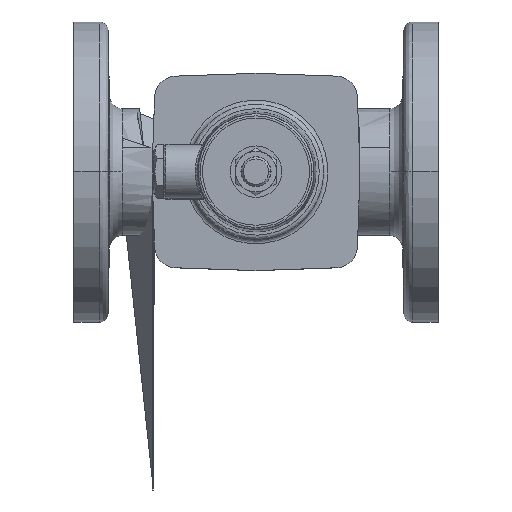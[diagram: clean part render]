
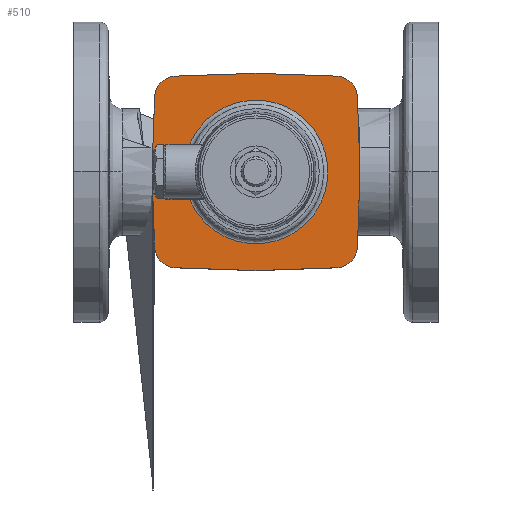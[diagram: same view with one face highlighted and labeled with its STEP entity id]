
A CAD part, top view. The second image highlights one B-rep face of the part: STEP entity #510.
In plain terms, the highlighted planar face has unit normal (0, 0, 1).
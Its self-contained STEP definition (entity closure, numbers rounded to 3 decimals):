
#510=ADVANCED_FACE('',(#3894),#3893,.T.);
#3893=PLANE('',#8030);
#3894=FACE_OUTER_BOUND('',#8031,.T.);
#8027=CARTESIAN_POINT('',(-58.186,-64.752,42.8));
#8028=DIRECTION('',(0.,0.,1.));
#8029=DIRECTION('',(1.,0.,0.));
#8030=AXIS2_PLACEMENT_3D('',#8027,#8028,#8029);
#8031=EDGE_LOOP('',(#10325,#10326,#10327,#10328,#10329,#10330,#10331,#10332,#10333,#10334,#10335,#10336,#10337,#10338,#10339));
#10325=ORIENTED_EDGE('',*,*,#11752,.T.);
#10326=ORIENTED_EDGE('',*,*,#11471,.T.);
#10327=ORIENTED_EDGE('',*,*,#11261,.T.);
#10328=ORIENTED_EDGE('',*,*,#11476,.T.);
#10329=ORIENTED_EDGE('',*,*,#11757,.T.);
#10330=ORIENTED_EDGE('',*,*,#11759,.T.);
#10331=ORIENTED_EDGE('',*,*,#11761,.T.);
#10332=ORIENTED_EDGE('',*,*,#11763,.T.);
#10333=ORIENTED_EDGE('',*,*,#11765,.T.);
#10334=ORIENTED_EDGE('',*,*,#11767,.T.);
#10335=ORIENTED_EDGE('',*,*,#11769,.T.);
#10336=ORIENTED_EDGE('',*,*,#11770,.T.);
#10337=ORIENTED_EDGE('',*,*,#11717,.T.);
#10338=ORIENTED_EDGE('',*,*,#11746,.T.);
#10339=ORIENTED_EDGE('',*,*,#11748,.T.);
#11261=EDGE_CURVE('',#14273,#14274,#14275,.T.);
#11471=EDGE_CURVE('',#15688,#14273,#15701,.T.);
#11476=EDGE_CURVE('',#14274,#15726,#15733,.T.);
#11717=EDGE_CURVE('',#17331,#17324,#17332,.T.);
#11746=EDGE_CURVE('',#17324,#17514,#17521,.T.);
#11748=EDGE_CURVE('',#17514,#17527,#17534,.T.);
#11752=EDGE_CURVE('',#17527,#15688,#17561,.T.);
#11757=EDGE_CURVE('',#15726,#17585,#17592,.T.);
#11759=EDGE_CURVE('',#17585,#17598,#17605,.T.);
#11761=EDGE_CURVE('',#17598,#17611,#17618,.T.);
#11763=EDGE_CURVE('',#17611,#17624,#17631,.T.);
#11765=EDGE_CURVE('',#17624,#17637,#17644,.T.);
#11767=EDGE_CURVE('',#17637,#17650,#17657,.T.);
#11769=EDGE_CURVE('',#17650,#17663,#17670,.T.);
#11770=EDGE_CURVE('',#17663,#17331,#17676,.T.);
#14273=VERTEX_POINT('',#20784);
#14274=VERTEX_POINT('',#20785);
#14275=CIRCLE('',#20789,33.5);
#15688=VERTEX_POINT('',#21881);
#15701=LINE('',#21888,#21889);
#15726=VERTEX_POINT('',#21902);
#15733=LINE('',#21906,#21907);
#17324=VERTEX_POINT('',#23080);
#17331=VERTEX_POINT('',#23084);
#17332=LINE('',#23085,#23086);
#17514=VERTEX_POINT('',#23189);
#17521=LINE('',#23193,#23194);
#17527=VERTEX_POINT('',#23196);
#17534=CIRCLE('',#23203,10.);
#17561=LINE('',#23216,#23217);
#17585=VERTEX_POINT('',#23228);
#17592=LINE('',#23232,#23233);
#17598=VERTEX_POINT('',#23235);
#17605=CIRCLE('',#23242,10.);
#17611=VERTEX_POINT('',#23243);
#17618=LINE('',#23247,#23248);
#17624=VERTEX_POINT('',#23250);
#17631=LINE('',#23254,#23255);
#17637=VERTEX_POINT('',#23257);
#17644=CIRCLE('',#23264,10.);
#17650=VERTEX_POINT('',#23265);
#17657=LINE('',#23269,#23270);
#17663=VERTEX_POINT('',#23272);
#17670=LINE('',#23276,#23277);
#17676=CIRCLE('',#23282,10.);
#20784=CARTESIAN_POINT('',(-32.268,9.,42.8));
#20785=CARTESIAN_POINT('',(-32.268,-9.,42.8));
#20786=CARTESIAN_POINT('',(0.,0.,42.8));
#20787=DIRECTION('',(0.,0.,-1.));
#20788=DIRECTION('',(-1.,0.,0.));
#20789=AXIS2_PLACEMENT_3D('',#20786,#20787,#20788);
#21881=CARTESIAN_POINT('',(-48.186,9.,42.8));
#21888=CARTESIAN_POINT('',(-48.186,9.,42.8));
#21889=VECTOR('',#21890,15.917);
#21890=DIRECTION('',(1.,0.,0.));
#21902=CARTESIAN_POINT('',(-48.186,-9.,42.8));
#21906=CARTESIAN_POINT('',(-32.268,-9.,42.8));
#21907=VECTOR('',#21908,15.917);
#21908=DIRECTION('',(-1.,0.,0.));
#23080=CARTESIAN_POINT('',(0.,46.,42.8));
#23084=CARTESIAN_POINT('',(37.631,44.686,42.8));
#23085=CARTESIAN_POINT('',(37.631,44.686,42.8));
#23086=VECTOR('',#23087,37.654);
#23087=DIRECTION('',(-0.999,0.035,0.));
#23189=CARTESIAN_POINT('',(-37.631,44.686,42.8));
#23193=CARTESIAN_POINT('',(0.,46.,42.8));
#23194=VECTOR('',#23195,37.654);
#23195=DIRECTION('',(-0.999,-0.035,0.));
#23196=CARTESIAN_POINT('',(-47.276,35.041,42.8));
#23200=CARTESIAN_POINT('',(-37.282,34.692,42.8));
#23201=DIRECTION('',(0.,0.,1.));
#23202=DIRECTION('',(-1.,0.,0.));
#23203=AXIS2_PLACEMENT_3D('',#23200,#23201,#23202);
#23216=CARTESIAN_POINT('',(-47.276,35.041,42.8));
#23217=VECTOR('',#23218,26.057);
#23218=DIRECTION('',(-0.035,-0.999,0.));
#23228=CARTESIAN_POINT('',(-47.276,-35.041,42.8));
#23232=CARTESIAN_POINT('',(-48.186,-9.,42.8));
#23233=VECTOR('',#23234,26.057);
#23234=DIRECTION('',(0.035,-0.999,0.));
#23235=CARTESIAN_POINT('',(-37.631,-44.686,42.8));
#23239=CARTESIAN_POINT('',(-37.282,-34.692,42.8));
#23240=DIRECTION('',(0.,0.,1.));
#23241=DIRECTION('',(-1.,0.,0.));
#23242=AXIS2_PLACEMENT_3D('',#23239,#23240,#23241);
#23243=CARTESIAN_POINT('',(0.,-46.,42.8));
#23247=CARTESIAN_POINT('',(-37.631,-44.686,42.8));
#23248=VECTOR('',#23249,37.654);
#23249=DIRECTION('',(0.999,-0.035,0.));
#23250=CARTESIAN_POINT('',(37.631,-44.686,42.8));
#23254=CARTESIAN_POINT('',(0.,-46.,42.8));
#23255=VECTOR('',#23256,37.654);
#23256=DIRECTION('',(0.999,0.035,0.));
#23257=CARTESIAN_POINT('',(47.276,-35.041,42.8));
#23261=CARTESIAN_POINT('',(37.282,-34.692,42.8));
#23262=DIRECTION('',(0.,0.,1.));
#23263=DIRECTION('',(-1.,0.,0.));
#23264=AXIS2_PLACEMENT_3D('',#23261,#23262,#23263);
#23265=CARTESIAN_POINT('',(48.5,0.,42.8));
#23269=CARTESIAN_POINT('',(47.276,-35.041,42.8));
#23270=VECTOR('',#23271,35.062);
#23271=DIRECTION('',(0.035,0.999,0.));
#23272=CARTESIAN_POINT('',(47.276,35.041,42.8));
#23276=CARTESIAN_POINT('',(48.5,0.,42.8));
#23277=VECTOR('',#23278,35.062);
#23278=DIRECTION('',(-0.035,0.999,0.));
#23279=CARTESIAN_POINT('',(37.282,34.692,42.8));
#23280=DIRECTION('',(0.,0.,1.));
#23281=DIRECTION('',(-1.,0.,0.));
#23282=AXIS2_PLACEMENT_3D('',#23279,#23280,#23281);
